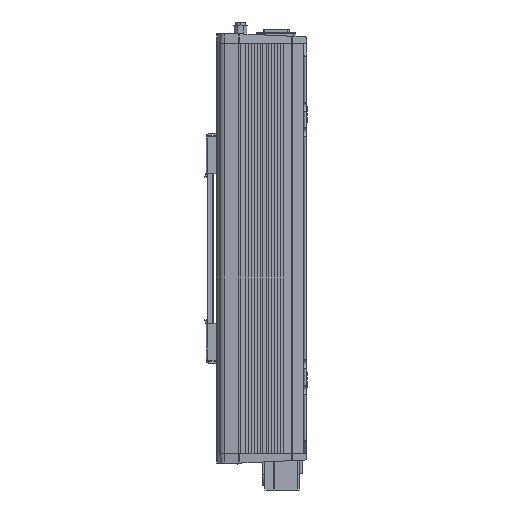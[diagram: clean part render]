
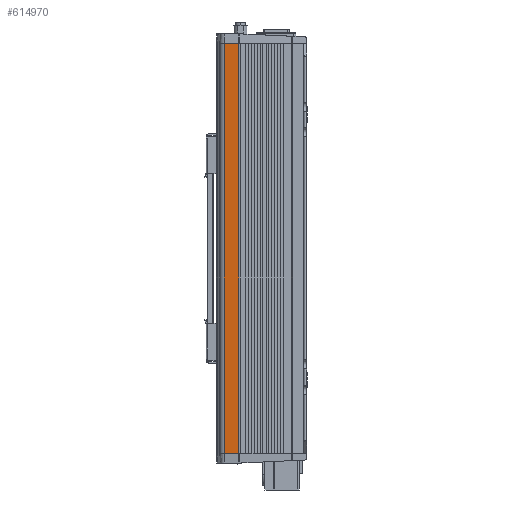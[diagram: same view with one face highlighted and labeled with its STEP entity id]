
A CAD part, left-side view. The second image highlights one B-rep face of the part: STEP entity #614970.
In plain terms, the highlighted planar face has unit normal (-0.995, 0.104, 0).
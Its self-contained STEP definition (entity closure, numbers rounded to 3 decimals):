
#597090=CARTESIAN_POINT('',(1975.16,76.808,373.756)
);
#597100=VERTEX_POINT('',#597090);
#597130=CARTESIAN_POINT('',(1967.087,0.,373.756));
#597140=DIRECTION('',(-0.105,-0.995,0.));
#597150=VECTOR('',#597140,1.);
#597160=LINE('',#597130,#597150);
#597170=CARTESIAN_POINT('',(1976.316,87.804,373.756
));
#597180=VERTEX_POINT('',#597170);
#597190=EDGE_CURVE('',#597180,#597100,#597160,.T.);
#605500=CARTESIAN_POINT('',(1976.316,87.804,55.756)
);
#605510=VERTEX_POINT('',#605500);
#605540=CARTESIAN_POINT('',(1967.087,0.,55.756));
#605550=DIRECTION('',(0.105,0.995,0.));
#605560=VECTOR('',#605550,1.);
#605570=LINE('',#605540,#605560);
#605580=CARTESIAN_POINT('',(1975.16,76.808,55.756))
;
#605590=VERTEX_POINT('',#605580);
#605600=EDGE_CURVE('',#605590,#605510,#605570,.T.);
#614720=CARTESIAN_POINT('',(1976.316,87.804,373.756
));
#614730=DIRECTION('',(0.,0.,-1.));
#614740=VECTOR('',#614730,1.);
#614750=LINE('',#614720,#614740);
#614760=EDGE_CURVE('',#597180,#605510,#614750,.T.);
#614810=CARTESIAN_POINT('',(1976.603,90.531,122.9));
#614820=DIRECTION('',(0.995,-0.105,0.));
#614830=DIRECTION('',(0.105,0.995,0.));
#614840=AXIS2_PLACEMENT_3D('',#614810,#614820,#614830);
#614850=PLANE('',#614840);
#614860=ORIENTED_EDGE('',*,*,#597190,.F.);
#614870=CARTESIAN_POINT('',(1975.16,76.808,0.));
#614880=DIRECTION('',(0.,0.,1.));
#614890=VECTOR('',#614880,1.);
#614900=LINE('',#614870,#614890);
#614910=EDGE_CURVE('',#605590,#597100,#614900,.T.);
#614920=ORIENTED_EDGE('',*,*,#614910,.T.);
#614930=ORIENTED_EDGE('',*,*,#605600,.F.);
#614940=ORIENTED_EDGE('',*,*,#614760,.T.);
#614950=EDGE_LOOP('',(#614940,#614930,#614920,#614860));
#614960=FACE_OUTER_BOUND('',#614950,.T.);
#614970=ADVANCED_FACE('',(#614960),#614850,.F.);
